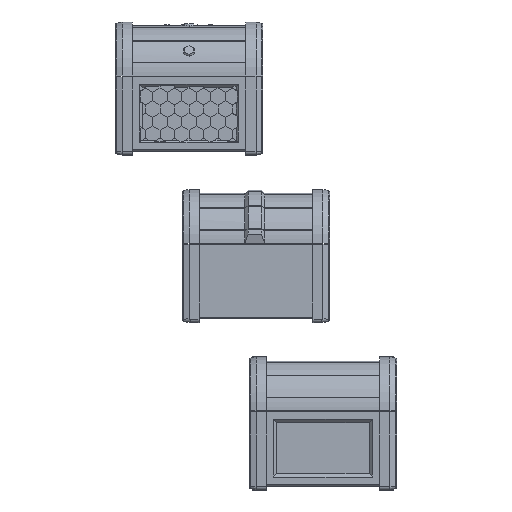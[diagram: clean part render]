
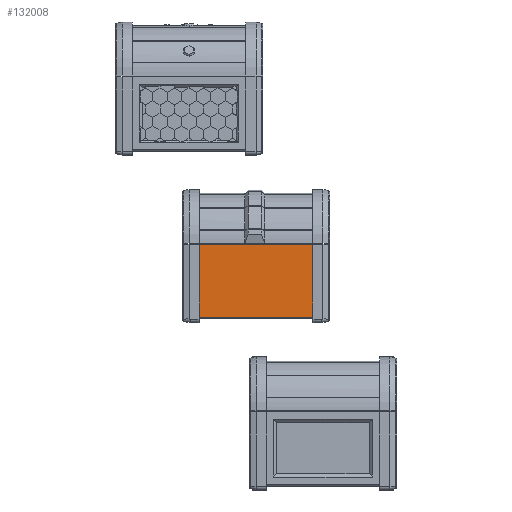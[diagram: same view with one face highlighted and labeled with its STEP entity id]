
A CAD part, left-side view. The second image highlights one B-rep face of the part: STEP entity #132008.
In plain terms, the highlighted planar face has unit normal (-1, 0, 0).
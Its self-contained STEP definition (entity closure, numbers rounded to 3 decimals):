
#7284=PLANE('',#141519);
#14378=FACE_OUTER_BOUND('',#21693,.T.);
#21693=EDGE_LOOP('',(#122211,#122212,#122213,#122214));
#36867=LINE('',#217663,#52612);
#36869=LINE('',#217667,#52614);
#36893=LINE('',#217724,#52638);
#36894=LINE('',#217725,#52639);
#52612=VECTOR('',#174735,10.);
#52614=VECTOR('',#174739,10.);
#52638=VECTOR('',#174799,10.);
#52639=VECTOR('',#174800,10.);
#67074=VERTEX_POINT('',#217660);
#67075=VERTEX_POINT('',#217662);
#67076=VERTEX_POINT('',#217666);
#67091=VERTEX_POINT('',#217723);
#85547=EDGE_CURVE('',#67074,#67075,#36867,.T.);
#85549=EDGE_CURVE('',#67075,#67076,#36869,.T.);
#85577=EDGE_CURVE('',#67091,#67074,#36893,.T.);
#85578=EDGE_CURVE('',#67091,#67076,#36894,.T.);
#122211=ORIENTED_EDGE('',*,*,#85549,.F.);
#122212=ORIENTED_EDGE('',*,*,#85547,.F.);
#122213=ORIENTED_EDGE('',*,*,#85577,.F.);
#122214=ORIENTED_EDGE('',*,*,#85578,.T.);
#132008=ADVANCED_FACE('',(#14378),#7284,.T.);
#141519=AXIS2_PLACEMENT_3D('',#217722,#174797,#174798);
#174735=DIRECTION('',(0.,0.,-1.));
#174739=DIRECTION('',(0.,1.,0.));
#174797=DIRECTION('center_axis',(-1.,0.,0.));
#174798=DIRECTION('ref_axis',(0.,0.,-1.));
#174799=DIRECTION('',(0.,-1.,0.));
#174800=DIRECTION('',(0.,0.,-1.));
#217660=CARTESIAN_POINT('',(-130.,-40.,99.5));
#217662=CARTESIAN_POINT('',(-130.,-40.,56.));
#217663=CARTESIAN_POINT('',(-130.,-40.,100.));
#217666=CARTESIAN_POINT('',(-130.,40.,56.));
#217667=CARTESIAN_POINT('',(-130.,40.,56.));
#217722=CARTESIAN_POINT('Origin',(-130.,40.,99.5));
#217723=CARTESIAN_POINT('',(-130.,40.,99.5));
#217724=CARTESIAN_POINT('',(-130.,40.,99.5));
#217725=CARTESIAN_POINT('',(-130.,40.,100.));
